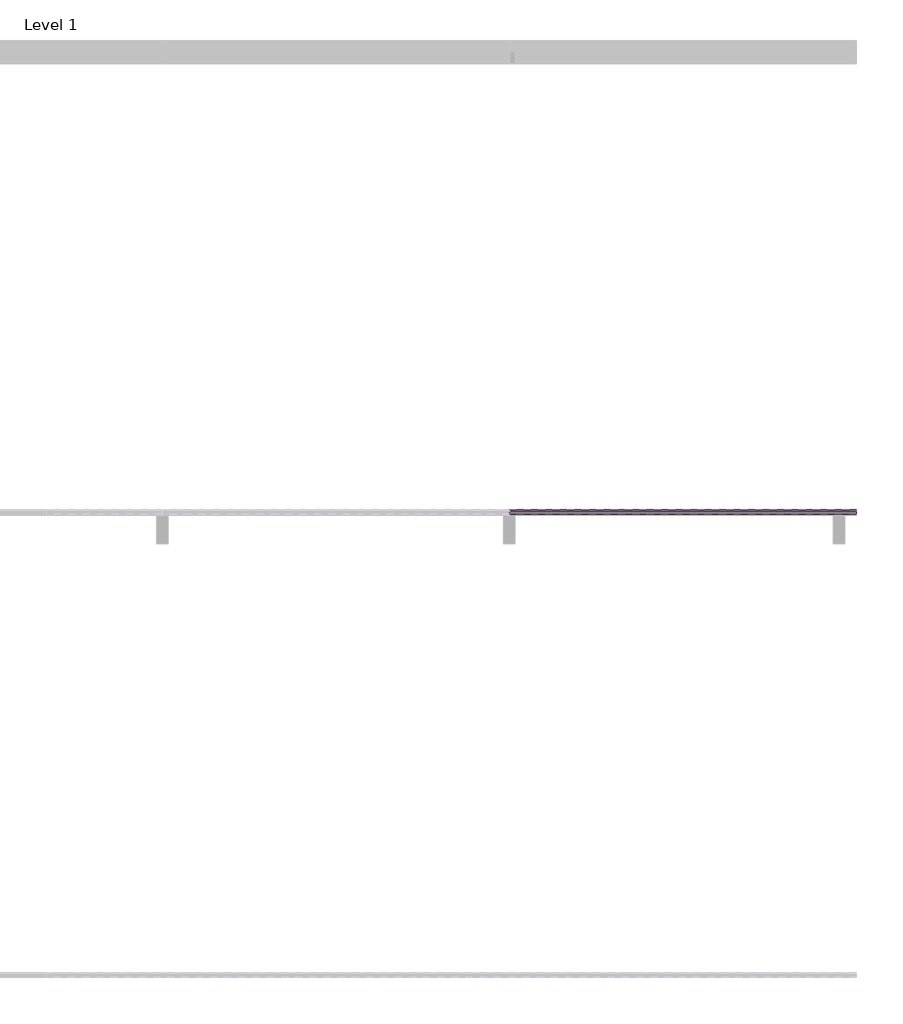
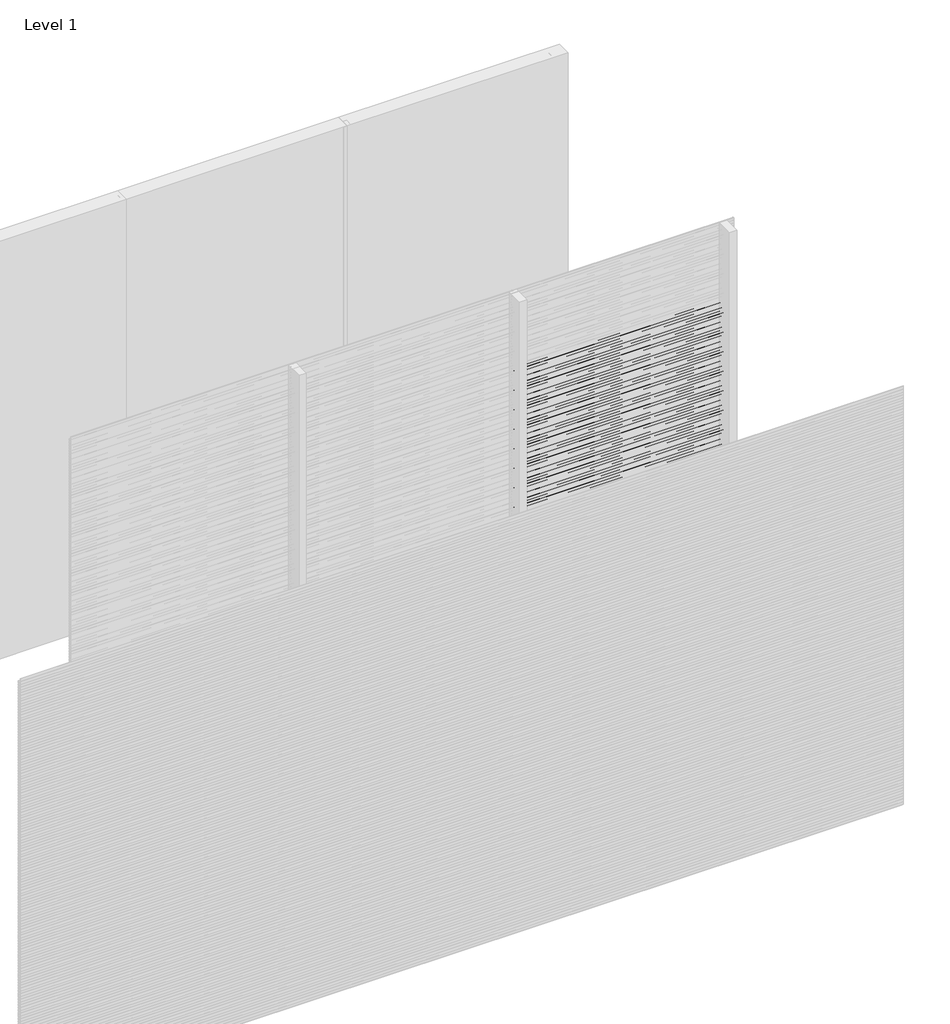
# One storey, part 8 of 31: 96 proxies.
"""IFC4 building model written with IfcOpenShell, lengths in millimetres."""

import ifcopenshell
import ifcopenshell.guid

model = None  # the IFC model being written
_history = None  # IfcOwnerHistory: only IFC2X3 demands one
_inside = {}  # id of a spatial element -> (the spatial element, [elements in it])
_under = {}  # id of a project, library or spatial element -> (it, [spatial elements below it])
_declared = {}  # id of a project -> (the project, [libraries it declares])
_typed = {}  # id of a type object -> (the type object, [elements of that type])
_made_of = {}  # id of a material, layer set ... -> (it, [elements and type objects made of it])


def new_model(schema):
    """Start an empty IFC model of exactly this schema.

    Asked for "IFC4X3", IfcOpenShell would pick the latest addendum, in which some entities
    have other attributes; the version numbers below select the first issue.
    IFC2X3 requires an IfcOwnerHistory on every rooted entity: one is made here for all.
    """
    global model, _history
    if schema == "IFC4X3":
        model = ifcopenshell.file(schema_version=(4, 3, 0, 0))
    else:
        model = ifcopenshell.file(schema=schema)
    _inside.clear()
    _under.clear()
    _declared.clear()
    _typed.clear()
    _made_of.clear()
    _history = None
    if model.schema == "IFC2X3":
        org = make("IfcOrganization", Name="unknown")
        user = make(
            "IfcPersonAndOrganization",
            ThePerson=make("IfcPerson", FamilyName="unknown"),
            TheOrganization=org,
        )
        app = make(
            "IfcApplication",
            ApplicationDeveloper=org,
            Version="unknown",
            ApplicationFullName="unknown",
            ApplicationIdentifier="unknown",
        )
        _history = make(
            "IfcOwnerHistory",
            OwningUser=user,
            OwningApplication=app,
            ChangeAction="ADDED",
            CreationDate=0,
        )
    return model


def make(cls, **values):
    """One entity of the class cls with the attributes given. An attribute that is None is left unset."""
    return model.create_entity(
        cls, **{name: value for name, value in values.items() if value is not None}
    )


def rooted(cls, **values):
    """An entity with a GlobalId (a new one), such as an element, a storey or a relation."""
    return make(cls, GlobalId=ifcopenshell.guid.new(), OwnerHistory=_history, **values)


def si_unit(unit_type, name, prefix=None):
    """IfcSIUnit, for example si_unit("LENGTHUNIT", "METRE", prefix="MILLI")."""
    return make("IfcSIUnit", UnitType=unit_type, Prefix=prefix, Name=name)


def assignment(units):
    """IfcUnitAssignment: the units of a project."""
    return None if units is None else make("IfcUnitAssignment", Units=units)


def point(xyz):
    """IfcCartesianPoint."""
    return None if xyz is None else make("IfcCartesianPoint", Coordinates=xyz)


def direction(xyz):
    """IfcDirection."""
    return None if xyz is None else make("IfcDirection", DirectionRatios=xyz)


def frame(location, z_axis=None, x_axis=None):
    """IfcAxis2Placement3D, a coordinate frame: its origin and axes. An axis left out is left unset."""
    return make(
        "IfcAxis2Placement3D",
        Location=point(location),
        Axis=direction(z_axis),
        RefDirection=direction(x_axis),
    )


def origin():
    """The frame at (0, 0, 0) with its axes left unset."""
    return frame((0.0, 0.0, 0.0))


def place(relative_to, where):
    """IfcLocalPlacement: puts the frame where relative to a parent placement (None: the world)."""
    return make(
        "IfcLocalPlacement", PlacementRelTo=relative_to, RelativePlacement=where
    )


def context(
    kind, dimensions, precision=None, world=None, true_north=None, identifier=None
):
    """IfcGeometricRepresentationContext, for example the 3D "Model" context."""
    return make(
        "IfcGeometricRepresentationContext",
        ContextIdentifier=identifier,
        ContextType=kind,
        CoordinateSpaceDimension=dimensions,
        Precision=precision,
        WorldCoordinateSystem=world,
        TrueNorth=true_north,
    )


def project(units=None, contexts=None):
    """IfcProject with its units and contexts."""
    return rooted(
        "IfcProject",
        Name="project",
        RepresentationContexts=contexts,
        UnitsInContext=assignment(units),
    )


def spatial(cls, under=None, at=None, **own):
    """A site, building, storey or space (cls), placed at a placement, below another one or the project."""
    s = rooted(cls, ObjectPlacement=at, **own)
    if under is not None:
        _under.setdefault(under.id(), (under, []))[1].append(s)
    return s


def polyline(points):
    """IfcPolyline through the points."""
    return make("IfcPolyline", Points=[point(p) for p in points])


def outline(outer, holes=None, kind="AREA"):
    """IfcArbitraryClosedProfileDef: a profile drawn as a closed curve; with holes, ...WithVoids."""
    if holes is None:
        return make("IfcArbitraryClosedProfileDef", ProfileType=kind, OuterCurve=outer)
    return make(
        "IfcArbitraryProfileDefWithVoids",
        ProfileType=kind,
        OuterCurve=outer,
        InnerCurves=holes,
    )


def extrude(swept, where, along, depth):
    """IfcExtrudedAreaSolid: the profile swept, set in the frame where, extruded along a direction by depth."""
    return make(
        "IfcExtrudedAreaSolid",
        SweptArea=swept,
        Position=where,
        ExtrudedDirection=direction(along),
        Depth=depth,
    )


def shape(context_of_items, identifier, shape_type, items):
    """IfcShapeRepresentation: the items that make up one representation, for example the "Body"."""
    return make(
        "IfcShapeRepresentation",
        ContextOfItems=context_of_items,
        RepresentationIdentifier=identifier,
        RepresentationType=shape_type,
        Items=items,
    )


def made_of(thing, what):
    """Note that an element or type object is made of a material, layer set ...; save() writes the relation."""
    if what is not None:
        _made_of.setdefault(what.id(), (what, []))[1].append(thing)
    return thing


def element(
    cls,
    number,
    at=None,
    inside=None,
    cuts=None,
    type_object=None,
    material=None,
    context=None,
    identifier="Body",
    shape_type=None,
    held_by="IfcProductDefinitionShape",
    body=None,
    shapes=None,
    **own,
):
    """One element of the class cls, such as IfcWall. Its Tag is "e" and its number.

    at: its placement. inside: the storey or other place that contains it. cuts: it is an
    opening in that element (IfcRelVoidsElement). A single representation is given by context,
    identifier, shape_type and body (its items); several are given by shapes. held_by: the class
    of the entity that holds the representations. save() writes the other relations.
    """
    e = rooted(cls, Tag="e%d" % number, ObjectPlacement=at, **own)
    if body is not None:
        shapes = [shape(context, identifier, shape_type, body)]
    if shapes is not None:
        e.Representation = make(held_by, Representations=shapes)
    if inside is not None:
        _inside.setdefault(inside.id(), (inside, []))[1].append(e)
    if cuts is not None:
        rooted(
            "IfcRelVoidsElement", RelatingBuildingElement=cuts, RelatedOpeningElement=e
        )
    if type_object is not None:
        _typed.setdefault(type_object.id(), (type_object, []))[1].append(e)
    return made_of(e, material)


def aggregate(whole, parts):
    """IfcRelAggregates: a whole, such as a stair, and the parts it consists of."""
    return rooted("IfcRelAggregates", RelatingObject=whole, RelatedObjects=parts)


def save(model, path):
    """Write the relations noted so far, then the file.

    IfcRelAggregates (storeys below a building ...), IfcRelContainedInSpatialStructure (elements
    in a storey), IfcRelDefinesByType, IfcRelAssociatesMaterial and IfcRelDeclares: one each for
    every whole, place, type object, material and project.
    """
    for whole, parts in _under.values():
        aggregate(whole, parts)
    for where, things in _inside.values():
        rooted(
            "IfcRelContainedInSpatialStructure",
            RelatedElements=things,
            RelatingStructure=where,
        )
    for kind, things in _typed.values():
        rooted("IfcRelDefinesByType", RelatedObjects=things, RelatingType=kind)
    for what, things in _made_of.values():
        rooted("IfcRelAssociatesMaterial", RelatedObjects=things, RelatingMaterial=what)
    for by, libraries in _declared.values():
        rooted("IfcRelDeclares", RelatingContext=by, RelatedDefinitions=libraries)
    model.write(path)


model = new_model("IFC4")

# Units and contexts
model_context = context("Model", 3, world=origin())
ifc_project = project(units=[si_unit("LENGTHUNIT", "METRE", prefix="MILLI")], contexts=[model_context])

# Site, building, storey
site = spatial("IfcSite", under=ifc_project)
building = spatial("IfcBuilding", under=site)
storey = spatial("IfcBuildingStorey", under=building, Name="Level 1", Elevation=0.0)

# Proxies
placement = place(None, origin())
element("IfcBuildingElementProxy", 1, Name="Wall Sweeps", at=placement, inside=storey, context=model_context, shape_type="SweptSolid", body=[
    extrude(outline(polyline([(-17995.0, 2460.0), (-17995.0, 2448.942893), (-17976.0, 2433.0), (-17976.0, 2420.0), (-17997.0, 2437.6210923), (-17997.0, 2460.0), (-17995.0, 2460.0)])), frame((4499.9999998, 0.0, 0.0), z_axis=(1.0, 0.0, 0.0), x_axis=(0.0, 1.0, 0.0)), (0.0, 0.0, 1.0), 1500.0000002),
])
element("IfcBuildingElementProxy", 2, Name="Wall Sweeps", at=placement, inside=storey, context=model_context, shape_type="SweptSolid", body=[
    extrude(outline(polyline([(-17995.0, 2440.0), (-17995.0, 2428.942893), (-17976.0, 2413.0), (-17976.0, 2400.0), (-17997.0, 2417.6210923), (-17997.0, 2440.0), (-17995.0, 2440.0)])), frame((4499.9999998, 0.0, 0.0), z_axis=(1.0, 0.0, 0.0), x_axis=(0.0, 1.0, 0.0)), (0.0, 0.0, 1.0), 1500.0000002),
])
element("IfcBuildingElementProxy", 3, Name="Wall Sweeps", at=placement, inside=storey, context=model_context, shape_type="SweptSolid", body=[
    extrude(outline(polyline([(-17995.0, 2420.0), (-17995.0, 2408.942893), (-17976.0, 2393.0), (-17976.0, 2380.0), (-17997.0, 2397.6210923), (-17997.0, 2420.0), (-17995.0, 2420.0)])), frame((4499.9999998, 0.0, 0.0), z_axis=(1.0, 0.0, 0.0), x_axis=(0.0, 1.0, 0.0)), (0.0, 0.0, 1.0), 1500.0000002),
])
element("IfcBuildingElementProxy", 4, Name="Wall Sweeps", at=placement, inside=storey, context=model_context, shape_type="SweptSolid", body=[
    extrude(outline(polyline([(-17995.0, 2400.0), (-17995.0, 2388.942893), (-17976.0, 2373.0), (-17976.0, 2360.0), (-17997.0, 2377.6210923), (-17997.0, 2400.0), (-17995.0, 2400.0)])), frame((4499.9999998, 0.0, 0.0), z_axis=(1.0, 0.0, 0.0), x_axis=(0.0, 1.0, 0.0)), (0.0, 0.0, 1.0), 1500.0000002),
])
element("IfcBuildingElementProxy", 5, Name="Wall Sweeps", at=placement, inside=storey, context=model_context, shape_type="SweptSolid", body=[
    extrude(outline(polyline([(-17995.0, 2380.0), (-17995.0, 2368.942893), (-17976.0, 2353.0), (-17976.0, 2340.0), (-17997.0, 2357.6210923), (-17997.0, 2380.0), (-17995.0, 2380.0)])), frame((4499.9999998, 0.0, 0.0), z_axis=(1.0, 0.0, 0.0), x_axis=(0.0, 1.0, 0.0)), (0.0, 0.0, 1.0), 1500.0000002),
])
element("IfcBuildingElementProxy", 6, Name="Wall Sweeps", at=placement, inside=storey, context=model_context, shape_type="SweptSolid", body=[
    extrude(outline(polyline([(-17995.0, 2360.0), (-17995.0, 2348.942893), (-17976.0, 2333.0), (-17976.0, 2320.0), (-17997.0, 2337.6210923), (-17997.0, 2360.0), (-17995.0, 2360.0)])), frame((4499.9999998, 0.0, 0.0), z_axis=(1.0, 0.0, 0.0), x_axis=(0.0, 1.0, 0.0)), (0.0, 0.0, 1.0), 1500.0000002),
])
element("IfcBuildingElementProxy", 7, Name="Wall Sweeps", at=placement, inside=storey, context=model_context, shape_type="SweptSolid", body=[
    extrude(outline(polyline([(-17995.0, 2340.0), (-17995.0, 2328.942893), (-17976.0, 2313.0), (-17976.0, 2300.0), (-17997.0, 2317.6210923), (-17997.0, 2340.0), (-17995.0, 2340.0)])), frame((4499.9999998, 0.0, 0.0), z_axis=(1.0, 0.0, 0.0), x_axis=(0.0, 1.0, 0.0)), (0.0, 0.0, 1.0), 1500.0000002),
])
element("IfcBuildingElementProxy", 8, Name="Wall Sweeps", at=placement, inside=storey, context=model_context, shape_type="SweptSolid", body=[
    extrude(outline(polyline([(-17995.0, 2320.0), (-17995.0, 2308.942893), (-17976.0, 2293.0), (-17976.0, 2280.0), (-17997.0, 2297.6210923), (-17997.0, 2320.0), (-17995.0, 2320.0)])), frame((4499.9999998, 0.0, 0.0), z_axis=(1.0, 0.0, 0.0), x_axis=(0.0, 1.0, 0.0)), (0.0, 0.0, 1.0), 1500.0000002),
])
element("IfcBuildingElementProxy", 9, Name="Wall Sweeps", at=placement, inside=storey, context=model_context, shape_type="SweptSolid", body=[
    extrude(outline(polyline([(-17995.0, 2300.0), (-17995.0, 2288.942893), (-17976.0, 2273.0), (-17976.0, 2260.0), (-17997.0, 2277.6210923), (-17997.0, 2300.0), (-17995.0, 2300.0)])), frame((4499.9999998, 0.0, 0.0), z_axis=(1.0, 0.0, 0.0), x_axis=(0.0, 1.0, 0.0)), (0.0, 0.0, 1.0), 1500.0000002),
])
element("IfcBuildingElementProxy", 10, Name="Wall Sweeps", at=placement, inside=storey, context=model_context, shape_type="SweptSolid", body=[
    extrude(outline(polyline([(-17995.0, 2280.0), (-17995.0, 2268.942893), (-17976.0, 2253.0), (-17976.0, 2240.0), (-17997.0, 2257.6210923), (-17997.0, 2280.0), (-17995.0, 2280.0)])), frame((4499.9999998, 0.0, 0.0), z_axis=(1.0, 0.0, 0.0), x_axis=(0.0, 1.0, 0.0)), (0.0, 0.0, 1.0), 1500.0000002),
])
element("IfcBuildingElementProxy", 11, Name="Wall Sweeps", at=placement, inside=storey, context=model_context, shape_type="SweptSolid", body=[
    extrude(outline(polyline([(-17995.0, 2260.0), (-17995.0, 2248.942893), (-17976.0, 2233.0), (-17976.0, 2220.0), (-17997.0, 2237.6210923), (-17997.0, 2260.0), (-17995.0, 2260.0)])), frame((4499.9999998, 0.0, 0.0), z_axis=(1.0, 0.0, 0.0), x_axis=(0.0, 1.0, 0.0)), (0.0, 0.0, 1.0), 1500.0000002),
])
element("IfcBuildingElementProxy", 12, Name="Wall Sweeps", at=placement, inside=storey, context=model_context, shape_type="SweptSolid", body=[
    extrude(outline(polyline([(-17995.0, 2240.0), (-17995.0, 2228.942893), (-17976.0, 2213.0), (-17976.0, 2200.0), (-17997.0, 2217.6210923), (-17997.0, 2240.0), (-17995.0, 2240.0)])), frame((4499.9999998, 0.0, 0.0), z_axis=(1.0, 0.0, 0.0), x_axis=(0.0, 1.0, 0.0)), (0.0, 0.0, 1.0), 1500.0000002),
])
element("IfcBuildingElementProxy", 13, Name="Wall Sweeps", at=placement, inside=storey, context=model_context, shape_type="SweptSolid", body=[
    extrude(outline(polyline([(-17995.0, 2220.0), (-17995.0, 2208.942893), (-17976.0, 2193.0), (-17976.0, 2180.0), (-17997.0, 2197.6210923), (-17997.0, 2220.0), (-17995.0, 2220.0)])), frame((4499.9999998, 0.0, 0.0), z_axis=(1.0, 0.0, 0.0), x_axis=(0.0, 1.0, 0.0)), (0.0, 0.0, 1.0), 1500.0000002),
])
element("IfcBuildingElementProxy", 14, Name="Wall Sweeps", at=placement, inside=storey, context=model_context, shape_type="SweptSolid", body=[
    extrude(outline(polyline([(-17995.0, 2200.0), (-17995.0, 2188.942893), (-17976.0, 2173.0), (-17976.0, 2160.0), (-17997.0, 2177.6210923), (-17997.0, 2200.0), (-17995.0, 2200.0)])), frame((4499.9999998, 0.0, 0.0), z_axis=(1.0, 0.0, 0.0), x_axis=(0.0, 1.0, 0.0)), (0.0, 0.0, 1.0), 1500.0000002),
])
element("IfcBuildingElementProxy", 15, Name="Wall Sweeps", at=placement, inside=storey, context=model_context, shape_type="SweptSolid", body=[
    extrude(outline(polyline([(-17995.0, 2180.0), (-17995.0, 2168.942893), (-17976.0, 2153.0), (-17976.0, 2140.0), (-17997.0, 2157.6210923), (-17997.0, 2180.0), (-17995.0, 2180.0)])), frame((4499.9999998, 0.0, 0.0), z_axis=(1.0, 0.0, 0.0), x_axis=(0.0, 1.0, 0.0)), (0.0, 0.0, 1.0), 1500.0000002),
])
element("IfcBuildingElementProxy", 16, Name="Wall Sweeps", at=placement, inside=storey, context=model_context, shape_type="SweptSolid", body=[
    extrude(outline(polyline([(-17995.0, 2160.0), (-17995.0, 2148.942893), (-17976.0, 2133.0), (-17976.0, 2120.0), (-17997.0, 2137.6210923), (-17997.0, 2160.0), (-17995.0, 2160.0)])), frame((4499.9999998, 0.0, 0.0), z_axis=(1.0, 0.0, 0.0), x_axis=(0.0, 1.0, 0.0)), (0.0, 0.0, 1.0), 1500.0000002),
])
element("IfcBuildingElementProxy", 17, Name="Wall Sweeps", at=placement, inside=storey, context=model_context, shape_type="SweptSolid", body=[
    extrude(outline(polyline([(-17995.0, 2140.0), (-17995.0, 2128.942893), (-17976.0, 2113.0), (-17976.0, 2100.0), (-17997.0, 2117.6210923), (-17997.0, 2140.0), (-17995.0, 2140.0)])), frame((4499.9999998, 0.0, 0.0), z_axis=(1.0, 0.0, 0.0), x_axis=(0.0, 1.0, 0.0)), (0.0, 0.0, 1.0), 1500.0000002),
])
element("IfcBuildingElementProxy", 18, Name="Wall Sweeps", at=placement, inside=storey, context=model_context, shape_type="SweptSolid", body=[
    extrude(outline(polyline([(-17995.0, 2120.0), (-17995.0, 2108.942893), (-17976.0, 2093.0), (-17976.0, 2080.0), (-17997.0, 2097.6210923), (-17997.0, 2120.0), (-17995.0, 2120.0)])), frame((4499.9999998, 0.0, 0.0), z_axis=(1.0, 0.0, 0.0), x_axis=(0.0, 1.0, 0.0)), (0.0, 0.0, 1.0), 1500.0000002),
])
element("IfcBuildingElementProxy", 19, Name="Wall Sweeps", at=placement, inside=storey, context=model_context, shape_type="SweptSolid", body=[
    extrude(outline(polyline([(-17995.0, 2100.0), (-17995.0, 2088.942893), (-17976.0, 2073.0), (-17976.0, 2060.0), (-17997.0, 2077.6210923), (-17997.0, 2100.0), (-17995.0, 2100.0)])), frame((4499.9999998, 0.0, 0.0), z_axis=(1.0, 0.0, 0.0), x_axis=(0.0, 1.0, 0.0)), (0.0, 0.0, 1.0), 1500.0000002),
])
element("IfcBuildingElementProxy", 20, Name="Wall Sweeps", at=placement, inside=storey, context=model_context, shape_type="SweptSolid", body=[
    extrude(outline(polyline([(-17995.0, 2080.0), (-17995.0, 2068.942893), (-17976.0, 2053.0), (-17976.0, 2040.0), (-17997.0, 2057.6210923), (-17997.0, 2080.0), (-17995.0, 2080.0)])), frame((4499.9999998, 0.0, 0.0), z_axis=(1.0, 0.0, 0.0), x_axis=(0.0, 1.0, 0.0)), (0.0, 0.0, 1.0), 1500.0000002),
])
element("IfcBuildingElementProxy", 21, Name="Wall Sweeps", at=placement, inside=storey, context=model_context, shape_type="SweptSolid", body=[
    extrude(outline(polyline([(-17995.0, 2060.0), (-17995.0, 2048.942893), (-17976.0, 2033.0), (-17976.0, 2020.0), (-17997.0, 2037.6210923), (-17997.0, 2060.0), (-17995.0, 2060.0)])), frame((4499.9999998, 0.0, 0.0), z_axis=(1.0, 0.0, 0.0), x_axis=(0.0, 1.0, 0.0)), (0.0, 0.0, 1.0), 1500.0000002),
])
element("IfcBuildingElementProxy", 22, Name="Wall Sweeps", at=placement, inside=storey, context=model_context, shape_type="SweptSolid", body=[
    extrude(outline(polyline([(-17995.0, 2040.0), (-17995.0, 2028.942893), (-17976.0, 2013.0), (-17976.0, 2000.0), (-17997.0, 2017.6210923), (-17997.0, 2040.0), (-17995.0, 2040.0)])), frame((4499.9999998, 0.0, 0.0), z_axis=(1.0, 0.0, 0.0), x_axis=(0.0, 1.0, 0.0)), (0.0, 0.0, 1.0), 1500.0000002),
])
element("IfcBuildingElementProxy", 23, Name="Wall Sweeps", at=placement, inside=storey, context=model_context, shape_type="SweptSolid", body=[
    extrude(outline(polyline([(-17995.0, 2020.0), (-17995.0, 2008.942893), (-17976.0, 1993.0), (-17976.0, 1980.0), (-17997.0, 1997.6210923), (-17997.0, 2020.0), (-17995.0, 2020.0)])), frame((4499.9999998, 0.0, 0.0), z_axis=(1.0, 0.0, 0.0), x_axis=(0.0, 1.0, 0.0)), (0.0, 0.0, 1.0), 1500.0000002),
])
element("IfcBuildingElementProxy", 24, Name="Wall Sweeps", at=placement, inside=storey, context=model_context, shape_type="SweptSolid", body=[
    extrude(outline(polyline([(-17995.0, 2000.0), (-17995.0, 1988.942893), (-17976.0, 1973.0), (-17976.0, 1960.0), (-17997.0, 1977.6210923), (-17997.0, 2000.0), (-17995.0, 2000.0)])), frame((4499.9999998, 0.0, 0.0), z_axis=(1.0, 0.0, 0.0), x_axis=(0.0, 1.0, 0.0)), (0.0, 0.0, 1.0), 1500.0000002),
])
element("IfcBuildingElementProxy", 25, Name="Wall Sweeps", at=placement, inside=storey, context=model_context, shape_type="SweptSolid", body=[
    extrude(outline(polyline([(-17995.0, 1980.0), (-17995.0, 1968.942893), (-17976.0, 1953.0), (-17976.0, 1940.0), (-17997.0, 1957.6210923), (-17997.0, 1980.0), (-17995.0, 1980.0)])), frame((4499.9999998, 0.0, 0.0), z_axis=(1.0, 0.0, 0.0), x_axis=(0.0, 1.0, 0.0)), (0.0, 0.0, 1.0), 1500.0000002),
])
element("IfcBuildingElementProxy", 26, Name="Wall Sweeps", at=placement, inside=storey, context=model_context, shape_type="SweptSolid", body=[
    extrude(outline(polyline([(-17995.0, 1960.0), (-17995.0, 1948.942893), (-17976.0, 1933.0), (-17976.0, 1920.0), (-17997.0, 1937.6210923), (-17997.0, 1960.0), (-17995.0, 1960.0)])), frame((4499.9999998, 0.0, 0.0), z_axis=(1.0, 0.0, 0.0), x_axis=(0.0, 1.0, 0.0)), (0.0, 0.0, 1.0), 1500.0000002),
])
element("IfcBuildingElementProxy", 27, Name="Wall Sweeps", at=placement, inside=storey, context=model_context, shape_type="SweptSolid", body=[
    extrude(outline(polyline([(-17995.0, 1940.0), (-17995.0, 1928.942893), (-17976.0, 1913.0), (-17976.0, 1900.0), (-17997.0, 1917.6210923), (-17997.0, 1940.0), (-17995.0, 1940.0)])), frame((4499.9999998, 0.0, 0.0), z_axis=(1.0, 0.0, 0.0), x_axis=(0.0, 1.0, 0.0)), (0.0, 0.0, 1.0), 1500.0000002),
])
element("IfcBuildingElementProxy", 28, Name="Wall Sweeps", at=placement, inside=storey, context=model_context, shape_type="SweptSolid", body=[
    extrude(outline(polyline([(-17995.0, 1920.0), (-17995.0, 1908.942893), (-17976.0, 1893.0), (-17976.0, 1880.0), (-17997.0, 1897.6210923), (-17997.0, 1920.0), (-17995.0, 1920.0)])), frame((4499.9999998, 0.0, 0.0), z_axis=(1.0, 0.0, 0.0), x_axis=(0.0, 1.0, 0.0)), (0.0, 0.0, 1.0), 1500.0000002),
])
element("IfcBuildingElementProxy", 29, Name="Wall Sweeps", at=placement, inside=storey, context=model_context, shape_type="SweptSolid", body=[
    extrude(outline(polyline([(-17995.0, 1900.0), (-17995.0, 1888.942893), (-17976.0, 1873.0), (-17976.0, 1860.0), (-17997.0, 1877.6210923), (-17997.0, 1900.0), (-17995.0, 1900.0)])), frame((4499.9999998, 0.0, 0.0), z_axis=(1.0, 0.0, 0.0), x_axis=(0.0, 1.0, 0.0)), (0.0, 0.0, 1.0), 1500.0000002),
])
element("IfcBuildingElementProxy", 30, Name="Wall Sweeps", at=placement, inside=storey, context=model_context, shape_type="SweptSolid", body=[
    extrude(outline(polyline([(-17995.0, 1880.0), (-17995.0, 1868.942893), (-17976.0, 1853.0), (-17976.0, 1840.0), (-17997.0, 1857.6210923), (-17997.0, 1880.0), (-17995.0, 1880.0)])), frame((4499.9999998, 0.0, 0.0), z_axis=(1.0, 0.0, 0.0), x_axis=(0.0, 1.0, 0.0)), (0.0, 0.0, 1.0), 1500.0000002),
])
element("IfcBuildingElementProxy", 31, Name="Wall Sweeps", at=placement, inside=storey, context=model_context, shape_type="SweptSolid", body=[
    extrude(outline(polyline([(-17995.0, 1860.0), (-17995.0, 1848.942893), (-17976.0, 1833.0), (-17976.0, 1820.0), (-17997.0, 1837.6210923), (-17997.0, 1860.0), (-17995.0, 1860.0)])), frame((4499.9999998, 0.0, 0.0), z_axis=(1.0, 0.0, 0.0), x_axis=(0.0, 1.0, 0.0)), (0.0, 0.0, 1.0), 1500.0000002),
])
element("IfcBuildingElementProxy", 32, Name="Wall Sweeps", at=placement, inside=storey, context=model_context, shape_type="SweptSolid", body=[
    extrude(outline(polyline([(-17995.0, 1840.0), (-17995.0, 1828.942893), (-17976.0, 1813.0), (-17976.0, 1800.0), (-17997.0, 1817.6210923), (-17997.0, 1840.0), (-17995.0, 1840.0)])), frame((4499.9999998, 0.0, 0.0), z_axis=(1.0, 0.0, 0.0), x_axis=(0.0, 1.0, 0.0)), (0.0, 0.0, 1.0), 1500.0000002),
])
element("IfcBuildingElementProxy", 33, Name="Wall Sweeps", at=placement, inside=storey, context=model_context, shape_type="SweptSolid", body=[
    extrude(outline(polyline([(-17995.0, 1820.0), (-17995.0, 1808.942893), (-17976.0, 1793.0), (-17976.0, 1780.0), (-17997.0, 1797.6210923), (-17997.0, 1820.0), (-17995.0, 1820.0)])), frame((4499.9999998, 0.0, 0.0), z_axis=(1.0, 0.0, 0.0), x_axis=(0.0, 1.0, 0.0)), (0.0, 0.0, 1.0), 1500.0000002),
])
element("IfcBuildingElementProxy", 34, Name="Wall Sweeps", at=placement, inside=storey, context=model_context, shape_type="SweptSolid", body=[
    extrude(outline(polyline([(-17995.0, 1800.0), (-17995.0, 1788.942893), (-17976.0, 1773.0), (-17976.0, 1760.0), (-17997.0, 1777.6210923), (-17997.0, 1800.0), (-17995.0, 1800.0)])), frame((4499.9999998, 0.0, 0.0), z_axis=(1.0, 0.0, 0.0), x_axis=(0.0, 1.0, 0.0)), (0.0, 0.0, 1.0), 1500.0000002),
])
element("IfcBuildingElementProxy", 35, Name="Wall Sweeps", at=placement, inside=storey, context=model_context, shape_type="SweptSolid", body=[
    extrude(outline(polyline([(-17995.0, 1780.0), (-17995.0, 1768.942893), (-17976.0, 1753.0), (-17976.0, 1740.0), (-17997.0, 1757.6210923), (-17997.0, 1780.0), (-17995.0, 1780.0)])), frame((4499.9999998, 0.0, 0.0), z_axis=(1.0, 0.0, 0.0), x_axis=(0.0, 1.0, 0.0)), (0.0, 0.0, 1.0), 1500.0000002),
])
element("IfcBuildingElementProxy", 36, Name="Wall Sweeps", at=placement, inside=storey, context=model_context, shape_type="SweptSolid", body=[
    extrude(outline(polyline([(-17995.0, 1760.0), (-17995.0, 1748.942893), (-17976.0, 1733.0), (-17976.0, 1720.0), (-17997.0, 1737.6210923), (-17997.0, 1760.0), (-17995.0, 1760.0)])), frame((4499.9999998, 0.0, 0.0), z_axis=(1.0, 0.0, 0.0), x_axis=(0.0, 1.0, 0.0)), (0.0, 0.0, 1.0), 1500.0000002),
])
element("IfcBuildingElementProxy", 37, Name="Wall Sweeps", at=placement, inside=storey, context=model_context, shape_type="SweptSolid", body=[
    extrude(outline(polyline([(-17995.0, 1740.0), (-17995.0, 1728.942893), (-17976.0, 1713.0), (-17976.0, 1700.0), (-17997.0, 1717.6210923), (-17997.0, 1740.0), (-17995.0, 1740.0)])), frame((4499.9999998, 0.0, 0.0), z_axis=(1.0, 0.0, 0.0), x_axis=(0.0, 1.0, 0.0)), (0.0, 0.0, 1.0), 1500.0000002),
])
element("IfcBuildingElementProxy", 38, Name="Wall Sweeps", at=placement, inside=storey, context=model_context, shape_type="SweptSolid", body=[
    extrude(outline(polyline([(-17995.0, 1720.0), (-17995.0, 1708.942893), (-17976.0, 1693.0), (-17976.0, 1680.0), (-17997.0, 1697.6210923), (-17997.0, 1720.0), (-17995.0, 1720.0)])), frame((4499.9999998, 0.0, 0.0), z_axis=(1.0, 0.0, 0.0), x_axis=(0.0, 1.0, 0.0)), (0.0, 0.0, 1.0), 1500.0000002),
])
element("IfcBuildingElementProxy", 39, Name="Wall Sweeps", at=placement, inside=storey, context=model_context, shape_type="SweptSolid", body=[
    extrude(outline(polyline([(-17995.0, 1700.0), (-17995.0, 1688.942893), (-17976.0, 1673.0), (-17976.0, 1660.0), (-17997.0, 1677.6210923), (-17997.0, 1700.0), (-17995.0, 1700.0)])), frame((4499.9999998, 0.0, 0.0), z_axis=(1.0, 0.0, 0.0), x_axis=(0.0, 1.0, 0.0)), (0.0, 0.0, 1.0), 1500.0000002),
])
element("IfcBuildingElementProxy", 40, Name="Wall Sweeps", at=placement, inside=storey, context=model_context, shape_type="SweptSolid", body=[
    extrude(outline(polyline([(-17995.0, 1680.0), (-17995.0, 1668.942893), (-17976.0, 1653.0), (-17976.0, 1640.0), (-17997.0, 1657.6210923), (-17997.0, 1680.0), (-17995.0, 1680.0)])), frame((4499.9999998, 0.0, 0.0), z_axis=(1.0, 0.0, 0.0), x_axis=(0.0, 1.0, 0.0)), (0.0, 0.0, 1.0), 1500.0000002),
])
element("IfcBuildingElementProxy", 41, Name="Wall Sweeps", at=placement, inside=storey, context=model_context, shape_type="SweptSolid", body=[
    extrude(outline(polyline([(-17995.0, 1660.0), (-17995.0, 1648.942893), (-17976.0, 1633.0), (-17976.0, 1620.0), (-17997.0, 1637.6210923), (-17997.0, 1660.0), (-17995.0, 1660.0)])), frame((4499.9999998, 0.0, 0.0), z_axis=(1.0, 0.0, 0.0), x_axis=(0.0, 1.0, 0.0)), (0.0, 0.0, 1.0), 1500.0000002),
])
element("IfcBuildingElementProxy", 42, Name="Wall Sweeps", at=placement, inside=storey, context=model_context, shape_type="SweptSolid", body=[
    extrude(outline(polyline([(-17995.0, 1640.0), (-17995.0, 1628.942893), (-17976.0, 1613.0), (-17976.0, 1600.0), (-17997.0, 1617.6210923), (-17997.0, 1640.0), (-17995.0, 1640.0)])), frame((4499.9999998, 0.0, 0.0), z_axis=(1.0, 0.0, 0.0), x_axis=(0.0, 1.0, 0.0)), (0.0, 0.0, 1.0), 1500.0000002),
])
element("IfcBuildingElementProxy", 43, Name="Wall Sweeps", at=placement, inside=storey, context=model_context, shape_type="SweptSolid", body=[
    extrude(outline(polyline([(-17995.0, 1620.0), (-17995.0, 1608.942893), (-17976.0, 1593.0), (-17976.0, 1580.0), (-17997.0, 1597.6210923), (-17997.0, 1620.0), (-17995.0, 1620.0)])), frame((4499.9999998, 0.0, 0.0), z_axis=(1.0, 0.0, 0.0), x_axis=(0.0, 1.0, 0.0)), (0.0, 0.0, 1.0), 1500.0000002),
])
element("IfcBuildingElementProxy", 44, Name="Wall Sweeps", at=placement, inside=storey, context=model_context, shape_type="SweptSolid", body=[
    extrude(outline(polyline([(-17995.0, 1600.0), (-17995.0, 1588.942893), (-17976.0, 1573.0), (-17976.0, 1560.0), (-17997.0, 1577.6210923), (-17997.0, 1600.0), (-17995.0, 1600.0)])), frame((4499.9999998, 0.0, 0.0), z_axis=(1.0, 0.0, 0.0), x_axis=(0.0, 1.0, 0.0)), (0.0, 0.0, 1.0), 1500.0000002),
])
element("IfcBuildingElementProxy", 45, Name="Wall Sweeps", at=placement, inside=storey, context=model_context, shape_type="SweptSolid", body=[
    extrude(outline(polyline([(-17995.0, 1580.0), (-17995.0, 1568.942893), (-17976.0, 1553.0), (-17976.0, 1540.0), (-17997.0, 1557.6210923), (-17997.0, 1580.0), (-17995.0, 1580.0)])), frame((4499.9999998, 0.0, 0.0), z_axis=(1.0, 0.0, 0.0), x_axis=(0.0, 1.0, 0.0)), (0.0, 0.0, 1.0), 1500.0000002),
])
element("IfcBuildingElementProxy", 46, Name="Wall Sweeps", at=placement, inside=storey, context=model_context, shape_type="SweptSolid", body=[
    extrude(outline(polyline([(-17995.0, 1560.0), (-17995.0, 1548.942893), (-17976.0, 1533.0), (-17976.0, 1520.0), (-17997.0, 1537.6210923), (-17997.0, 1560.0), (-17995.0, 1560.0)])), frame((4499.9999998, 0.0, 0.0), z_axis=(1.0, 0.0, 0.0), x_axis=(0.0, 1.0, 0.0)), (0.0, 0.0, 1.0), 1500.0000002),
])
element("IfcBuildingElementProxy", 47, Name="Wall Sweeps", at=placement, inside=storey, context=model_context, shape_type="SweptSolid", body=[
    extrude(outline(polyline([(-17995.0, 1540.0), (-17995.0, 1528.942893), (-17976.0, 1513.0), (-17976.0, 1500.0), (-17997.0, 1517.6210923), (-17997.0, 1540.0), (-17995.0, 1540.0)])), frame((4499.9999998, 0.0, 0.0), z_axis=(1.0, 0.0, 0.0), x_axis=(0.0, 1.0, 0.0)), (0.0, 0.0, 1.0), 1500.0000002),
])
element("IfcBuildingElementProxy", 48, Name="Wall Sweeps", at=placement, inside=storey, context=model_context, shape_type="SweptSolid", body=[
    extrude(outline(polyline([(-17995.0, 1520.0), (-17995.0, 1508.942893), (-17976.0, 1493.0), (-17976.0, 1480.0), (-17997.0, 1497.6210923), (-17997.0, 1520.0), (-17995.0, 1520.0)])), frame((4499.9999998, 0.0, 0.0), z_axis=(1.0, 0.0, 0.0), x_axis=(0.0, 1.0, 0.0)), (0.0, 0.0, 1.0), 1500.0000002),
])
element("IfcBuildingElementProxy", 49, Name="Wall Sweeps", at=placement, inside=storey, context=model_context, shape_type="SweptSolid", body=[
    extrude(outline(polyline([(-17995.0, 1500.0), (-17995.0, 1488.942893), (-17976.0, 1473.0), (-17976.0, 1460.0), (-17997.0, 1477.6210923), (-17997.0, 1500.0), (-17995.0, 1500.0)])), frame((4499.9999998, 0.0, 0.0), z_axis=(1.0, 0.0, 0.0), x_axis=(0.0, 1.0, 0.0)), (0.0, 0.0, 1.0), 1500.0000002),
])
element("IfcBuildingElementProxy", 50, Name="Wall Sweeps", at=placement, inside=storey, context=model_context, shape_type="SweptSolid", body=[
    extrude(outline(polyline([(-17995.0, 1480.0), (-17995.0, 1468.942893), (-17976.0, 1453.0), (-17976.0, 1440.0), (-17997.0, 1457.6210923), (-17997.0, 1480.0), (-17995.0, 1480.0)])), frame((4499.9999998, 0.0, 0.0), z_axis=(1.0, 0.0, 0.0), x_axis=(0.0, 1.0, 0.0)), (0.0, 0.0, 1.0), 1500.0000002),
])
element("IfcBuildingElementProxy", 51, Name="Wall Sweeps", at=placement, inside=storey, context=model_context, shape_type="SweptSolid", body=[
    extrude(outline(polyline([(-17995.0, 1460.0), (-17995.0, 1448.942893), (-17976.0, 1433.0), (-17976.0, 1420.0), (-17997.0, 1437.6210923), (-17997.0, 1460.0), (-17995.0, 1460.0)])), frame((4499.9999998, 0.0, 0.0), z_axis=(1.0, 0.0, 0.0), x_axis=(0.0, 1.0, 0.0)), (0.0, 0.0, 1.0), 1500.0000002),
])
element("IfcBuildingElementProxy", 52, Name="Wall Sweeps", at=placement, inside=storey, context=model_context, shape_type="SweptSolid", body=[
    extrude(outline(polyline([(-17995.0, 1440.0), (-17995.0, 1428.942893), (-17976.0, 1413.0), (-17976.0, 1400.0), (-17997.0, 1417.6210923), (-17997.0, 1440.0), (-17995.0, 1440.0)])), frame((4499.9999998, 0.0, 0.0), z_axis=(1.0, 0.0, 0.0), x_axis=(0.0, 1.0, 0.0)), (0.0, 0.0, 1.0), 1500.0000002),
])
element("IfcBuildingElementProxy", 53, Name="Wall Sweeps", at=placement, inside=storey, context=model_context, shape_type="SweptSolid", body=[
    extrude(outline(polyline([(-17995.0, 1420.0), (-17995.0, 1408.942893), (-17976.0, 1393.0), (-17976.0, 1380.0), (-17997.0, 1397.6210923), (-17997.0, 1420.0), (-17995.0, 1420.0)])), frame((4499.9999998, 0.0, 0.0), z_axis=(1.0, 0.0, 0.0), x_axis=(0.0, 1.0, 0.0)), (0.0, 0.0, 1.0), 1500.0000002),
])
element("IfcBuildingElementProxy", 54, Name="Wall Sweeps", at=placement, inside=storey, context=model_context, shape_type="SweptSolid", body=[
    extrude(outline(polyline([(-17995.0, 1400.0), (-17995.0, 1388.942893), (-17976.0, 1373.0), (-17976.0, 1360.0), (-17997.0, 1377.6210923), (-17997.0, 1400.0), (-17995.0, 1400.0)])), frame((4499.9999998, 0.0, 0.0), z_axis=(1.0, 0.0, 0.0), x_axis=(0.0, 1.0, 0.0)), (0.0, 0.0, 1.0), 1500.0000002),
])
element("IfcBuildingElementProxy", 55, Name="Wall Sweeps", at=placement, inside=storey, context=model_context, shape_type="SweptSolid", body=[
    extrude(outline(polyline([(-17995.0, 1380.0), (-17995.0, 1368.942893), (-17976.0, 1353.0), (-17976.0, 1340.0), (-17997.0, 1357.6210923), (-17997.0, 1380.0), (-17995.0, 1380.0)])), frame((4499.9999998, 0.0, 0.0), z_axis=(1.0, 0.0, 0.0), x_axis=(0.0, 1.0, 0.0)), (0.0, 0.0, 1.0), 1500.0000002),
])
element("IfcBuildingElementProxy", 56, Name="Wall Sweeps", at=placement, inside=storey, context=model_context, shape_type="SweptSolid", body=[
    extrude(outline(polyline([(-17995.0, 1360.0), (-17995.0, 1348.942893), (-17976.0, 1333.0), (-17976.0, 1320.0), (-17997.0, 1337.6210923), (-17997.0, 1360.0), (-17995.0, 1360.0)])), frame((4499.9999998, 0.0, 0.0), z_axis=(1.0, 0.0, 0.0), x_axis=(0.0, 1.0, 0.0)), (0.0, 0.0, 1.0), 1500.0000002),
])
element("IfcBuildingElementProxy", 57, Name="Wall Sweeps", at=placement, inside=storey, context=model_context, shape_type="SweptSolid", body=[
    extrude(outline(polyline([(-17995.0, 1340.0), (-17995.0, 1328.942893), (-17976.0, 1313.0), (-17976.0, 1300.0), (-17997.0, 1317.6210923), (-17997.0, 1340.0), (-17995.0, 1340.0)])), frame((4499.9999998, 0.0, 0.0), z_axis=(1.0, 0.0, 0.0), x_axis=(0.0, 1.0, 0.0)), (0.0, 0.0, 1.0), 1500.0000002),
])
element("IfcBuildingElementProxy", 58, Name="Wall Sweeps", at=placement, inside=storey, context=model_context, shape_type="SweptSolid", body=[
    extrude(outline(polyline([(-17995.0, 1320.0), (-17995.0, 1308.942893), (-17976.0, 1293.0), (-17976.0, 1280.0), (-17997.0, 1297.6210923), (-17997.0, 1320.0), (-17995.0, 1320.0)])), frame((4499.9999998, 0.0, 0.0), z_axis=(1.0, 0.0, 0.0), x_axis=(0.0, 1.0, 0.0)), (0.0, 0.0, 1.0), 1500.0000002),
])
element("IfcBuildingElementProxy", 59, Name="Wall Sweeps", at=placement, inside=storey, context=model_context, shape_type="SweptSolid", body=[
    extrude(outline(polyline([(-17995.0, 1300.0), (-17995.0, 1288.942893), (-17976.0, 1273.0), (-17976.0, 1260.0), (-17997.0, 1277.6210923), (-17997.0, 1300.0), (-17995.0, 1300.0)])), frame((4499.9999998, 0.0, 0.0), z_axis=(1.0, 0.0, 0.0), x_axis=(0.0, 1.0, 0.0)), (0.0, 0.0, 1.0), 1500.0000002),
])
element("IfcBuildingElementProxy", 60, Name="Wall Sweeps", at=placement, inside=storey, context=model_context, shape_type="SweptSolid", body=[
    extrude(outline(polyline([(-17995.0, 1280.0), (-17995.0, 1268.942893), (-17976.0, 1253.0), (-17976.0, 1240.0), (-17997.0, 1257.6210923), (-17997.0, 1280.0), (-17995.0, 1280.0)])), frame((4499.9999998, 0.0, 0.0), z_axis=(1.0, 0.0, 0.0), x_axis=(0.0, 1.0, 0.0)), (0.0, 0.0, 1.0), 1500.0000002),
])
element("IfcBuildingElementProxy", 61, Name="Wall Sweeps", at=placement, inside=storey, context=model_context, shape_type="SweptSolid", body=[
    extrude(outline(polyline([(-17995.0, 1260.0), (-17995.0, 1248.942893), (-17976.0, 1233.0), (-17976.0, 1220.0), (-17997.0, 1237.6210923), (-17997.0, 1260.0), (-17995.0, 1260.0)])), frame((4499.9999998, 0.0, 0.0), z_axis=(1.0, 0.0, 0.0), x_axis=(0.0, 1.0, 0.0)), (0.0, 0.0, 1.0), 1500.0000002),
])
element("IfcBuildingElementProxy", 62, Name="Wall Sweeps", at=placement, inside=storey, context=model_context, shape_type="SweptSolid", body=[
    extrude(outline(polyline([(-17995.0, 1240.0), (-17995.0, 1228.942893), (-17976.0, 1213.0), (-17976.0, 1200.0), (-17997.0, 1217.6210923), (-17997.0, 1240.0), (-17995.0, 1240.0)])), frame((4499.9999998, 0.0, 0.0), z_axis=(1.0, 0.0, 0.0), x_axis=(0.0, 1.0, 0.0)), (0.0, 0.0, 1.0), 1500.0000002),
])
element("IfcBuildingElementProxy", 63, Name="Wall Sweeps", at=placement, inside=storey, context=model_context, shape_type="SweptSolid", body=[
    extrude(outline(polyline([(-17995.0, 1220.0), (-17995.0, 1208.942893), (-17976.0, 1193.0), (-17976.0, 1180.0), (-17997.0, 1197.6210923), (-17997.0, 1220.0), (-17995.0, 1220.0)])), frame((4499.9999998, 0.0, 0.0), z_axis=(1.0, 0.0, 0.0), x_axis=(0.0, 1.0, 0.0)), (0.0, 0.0, 1.0), 1500.0000002),
])
element("IfcBuildingElementProxy", 64, Name="Wall Sweeps", at=placement, inside=storey, context=model_context, shape_type="SweptSolid", body=[
    extrude(outline(polyline([(-17995.0, 1200.0), (-17995.0, 1188.942893), (-17976.0, 1173.0), (-17976.0, 1160.0), (-17997.0, 1177.6210923), (-17997.0, 1200.0), (-17995.0, 1200.0)])), frame((4499.9999998, 0.0, 0.0), z_axis=(1.0, 0.0, 0.0), x_axis=(0.0, 1.0, 0.0)), (0.0, 0.0, 1.0), 1500.0000002),
])
element("IfcBuildingElementProxy", 65, Name="Wall Sweeps", at=placement, inside=storey, context=model_context, shape_type="SweptSolid", body=[
    extrude(outline(polyline([(-17995.0, 1180.0), (-17995.0, 1168.942893), (-17976.0, 1153.0), (-17976.0, 1140.0), (-17997.0, 1157.6210923), (-17997.0, 1180.0), (-17995.0, 1180.0)])), frame((4499.9999998, 0.0, 0.0), z_axis=(1.0, 0.0, 0.0), x_axis=(0.0, 1.0, 0.0)), (0.0, 0.0, 1.0), 1500.0000002),
])
element("IfcBuildingElementProxy", 66, Name="Wall Sweeps", at=placement, inside=storey, context=model_context, shape_type="SweptSolid", body=[
    extrude(outline(polyline([(-17995.0, 1160.0), (-17995.0, 1148.942893), (-17976.0, 1133.0), (-17976.0, 1120.0), (-17997.0, 1137.6210923), (-17997.0, 1160.0), (-17995.0, 1160.0)])), frame((4499.9999998, 0.0, 0.0), z_axis=(1.0, 0.0, 0.0), x_axis=(0.0, 1.0, 0.0)), (0.0, 0.0, 1.0), 1500.0000002),
])
element("IfcBuildingElementProxy", 67, Name="Wall Sweeps", at=placement, inside=storey, context=model_context, shape_type="SweptSolid", body=[
    extrude(outline(polyline([(-17995.0, 1140.0), (-17995.0, 1128.942893), (-17976.0, 1113.0), (-17976.0, 1100.0), (-17997.0, 1117.6210923), (-17997.0, 1140.0), (-17995.0, 1140.0)])), frame((4499.9999998, 0.0, 0.0), z_axis=(1.0, 0.0, 0.0), x_axis=(0.0, 1.0, 0.0)), (0.0, 0.0, 1.0), 1500.0000002),
])
element("IfcBuildingElementProxy", 68, Name="Wall Sweeps", at=placement, inside=storey, context=model_context, shape_type="SweptSolid", body=[
    extrude(outline(polyline([(-17995.0, 1120.0), (-17995.0, 1108.942893), (-17976.0, 1093.0), (-17976.0, 1080.0), (-17997.0, 1097.6210923), (-17997.0, 1120.0), (-17995.0, 1120.0)])), frame((4499.9999998, 0.0, 0.0), z_axis=(1.0, 0.0, 0.0), x_axis=(0.0, 1.0, 0.0)), (0.0, 0.0, 1.0), 1500.0000002),
])
element("IfcBuildingElementProxy", 69, Name="Wall Sweeps", at=placement, inside=storey, context=model_context, shape_type="SweptSolid", body=[
    extrude(outline(polyline([(-17995.0, 1100.0), (-17995.0, 1088.942893), (-17976.0, 1073.0), (-17976.0, 1060.0), (-17997.0, 1077.6210923), (-17997.0, 1100.0), (-17995.0, 1100.0)])), frame((4499.9999998, 0.0, 0.0), z_axis=(1.0, 0.0, 0.0), x_axis=(0.0, 1.0, 0.0)), (0.0, 0.0, 1.0), 1500.0000002),
])
element("IfcBuildingElementProxy", 70, Name="Wall Sweeps", at=placement, inside=storey, context=model_context, shape_type="SweptSolid", body=[
    extrude(outline(polyline([(-17995.0, 1080.0), (-17995.0, 1068.942893), (-17976.0, 1053.0), (-17976.0, 1040.0), (-17997.0, 1057.6210923), (-17997.0, 1080.0), (-17995.0, 1080.0)])), frame((4499.9999998, 0.0, 0.0), z_axis=(1.0, 0.0, 0.0), x_axis=(0.0, 1.0, 0.0)), (0.0, 0.0, 1.0), 1500.0000002),
])
element("IfcBuildingElementProxy", 71, Name="Wall Sweeps", at=placement, inside=storey, context=model_context, shape_type="SweptSolid", body=[
    extrude(outline(polyline([(-17995.0, 1060.0), (-17995.0, 1048.942893), (-17976.0, 1033.0), (-17976.0, 1020.0), (-17997.0, 1037.6210923), (-17997.0, 1060.0), (-17995.0, 1060.0)])), frame((4499.9999998, 0.0, 0.0), z_axis=(1.0, 0.0, 0.0), x_axis=(0.0, 1.0, 0.0)), (0.0, 0.0, 1.0), 1500.0000002),
])
element("IfcBuildingElementProxy", 72, Name="Wall Sweeps", at=placement, inside=storey, context=model_context, shape_type="SweptSolid", body=[
    extrude(outline(polyline([(-17995.0, 1040.0), (-17995.0, 1028.942893), (-17976.0, 1013.0), (-17976.0, 1000.0), (-17997.0, 1017.6210923), (-17997.0, 1040.0), (-17995.0, 1040.0)])), frame((4499.9999998, 0.0, 0.0), z_axis=(1.0, 0.0, 0.0), x_axis=(0.0, 1.0, 0.0)), (0.0, 0.0, 1.0), 1500.0000002),
])
element("IfcBuildingElementProxy", 73, Name="Wall Sweeps", at=placement, inside=storey, context=model_context, shape_type="SweptSolid", body=[
    extrude(outline(polyline([(-17995.0, 1020.0), (-17995.0, 1008.942893), (-17976.0, 993.0), (-17976.0, 980.0), (-17997.0, 997.6210923), (-17997.0, 1020.0), (-17995.0, 1020.0)])), frame((4499.9999998, 0.0, 0.0), z_axis=(1.0, 0.0, 0.0), x_axis=(0.0, 1.0, 0.0)), (0.0, 0.0, 1.0), 1500.0000002),
])
element("IfcBuildingElementProxy", 74, Name="Wall Sweeps", at=placement, inside=storey, context=model_context, shape_type="SweptSolid", body=[
    extrude(outline(polyline([(-17995.0, 1000.0), (-17995.0, 988.942893), (-17976.0, 973.0), (-17976.0, 960.0), (-17997.0, 977.6210923), (-17997.0, 1000.0), (-17995.0, 1000.0)])), frame((4499.9999998, 0.0, 0.0), z_axis=(1.0, 0.0, 0.0), x_axis=(0.0, 1.0, 0.0)), (0.0, 0.0, 1.0), 1500.0000002),
])
element("IfcBuildingElementProxy", 75, Name="Wall Sweeps", at=placement, inside=storey, context=model_context, shape_type="SweptSolid", body=[
    extrude(outline(polyline([(-17995.0, 980.0), (-17995.0, 968.942893), (-17976.0, 953.0), (-17976.0, 940.0), (-17997.0, 957.6210923), (-17997.0, 980.0), (-17995.0, 980.0)])), frame((4499.9999998, 0.0, 0.0), z_axis=(1.0, 0.0, 0.0), x_axis=(0.0, 1.0, 0.0)), (0.0, 0.0, 1.0), 1500.0000002),
])
element("IfcBuildingElementProxy", 76, Name="Wall Sweeps", at=placement, inside=storey, context=model_context, shape_type="SweptSolid", body=[
    extrude(outline(polyline([(-17995.0, 960.0), (-17995.0, 948.942893), (-17976.0, 933.0), (-17976.0, 920.0), (-17997.0, 937.6210923), (-17997.0, 960.0), (-17995.0, 960.0)])), frame((4499.9999998, 0.0, 0.0), z_axis=(1.0, 0.0, 0.0), x_axis=(0.0, 1.0, 0.0)), (0.0, 0.0, 1.0), 1500.0000002),
])
element("IfcBuildingElementProxy", 77, Name="Wall Sweeps", at=placement, inside=storey, context=model_context, shape_type="SweptSolid", body=[
    extrude(outline(polyline([(-17995.0, 940.0), (-17995.0, 928.942893), (-17976.0, 913.0), (-17976.0, 900.0), (-17997.0, 917.6210923), (-17997.0, 940.0), (-17995.0, 940.0)])), frame((4499.9999998, 0.0, 0.0), z_axis=(1.0, 0.0, 0.0), x_axis=(0.0, 1.0, 0.0)), (0.0, 0.0, 1.0), 1500.0000002),
])
element("IfcBuildingElementProxy", 78, Name="Wall Sweeps", at=placement, inside=storey, context=model_context, shape_type="SweptSolid", body=[
    extrude(outline(polyline([(-17995.0, 920.0), (-17995.0, 908.942893), (-17976.0, 893.0), (-17976.0, 880.0), (-17997.0, 897.6210923), (-17997.0, 920.0), (-17995.0, 920.0)])), frame((4499.9999998, 0.0, 0.0), z_axis=(1.0, 0.0, 0.0), x_axis=(0.0, 1.0, 0.0)), (0.0, 0.0, 1.0), 1500.0000002),
])
element("IfcBuildingElementProxy", 79, Name="Wall Sweeps", at=placement, inside=storey, context=model_context, shape_type="SweptSolid", body=[
    extrude(outline(polyline([(-17995.0, 900.0), (-17995.0, 888.942893), (-17976.0, 873.0), (-17976.0, 860.0), (-17997.0, 877.6210923), (-17997.0, 900.0), (-17995.0, 900.0)])), frame((4499.9999998, 0.0, 0.0), z_axis=(1.0, 0.0, 0.0), x_axis=(0.0, 1.0, 0.0)), (0.0, 0.0, 1.0), 1500.0000002),
])
element("IfcBuildingElementProxy", 80, Name="Wall Sweeps", at=placement, inside=storey, context=model_context, shape_type="SweptSolid", body=[
    extrude(outline(polyline([(-17995.0, 880.0), (-17995.0, 868.942893), (-17976.0, 853.0), (-17976.0, 840.0), (-17997.0, 857.6210923), (-17997.0, 880.0), (-17995.0, 880.0)])), frame((4499.9999998, 0.0, 0.0), z_axis=(1.0, 0.0, 0.0), x_axis=(0.0, 1.0, 0.0)), (0.0, 0.0, 1.0), 1500.0000002),
])
element("IfcBuildingElementProxy", 81, Name="Wall Sweeps", at=placement, inside=storey, context=model_context, shape_type="SweptSolid", body=[
    extrude(outline(polyline([(-17995.0, 860.0), (-17995.0, 848.942893), (-17976.0, 833.0), (-17976.0, 820.0), (-17997.0, 837.6210923), (-17997.0, 860.0), (-17995.0, 860.0)])), frame((4499.9999998, 0.0, 0.0), z_axis=(1.0, 0.0, 0.0), x_axis=(0.0, 1.0, 0.0)), (0.0, 0.0, 1.0), 1500.0000002),
])
element("IfcBuildingElementProxy", 82, Name="Wall Sweeps", at=placement, inside=storey, context=model_context, shape_type="SweptSolid", body=[
    extrude(outline(polyline([(-17995.0, 840.0), (-17995.0, 828.942893), (-17976.0, 813.0), (-17976.0, 800.0), (-17997.0, 817.6210923), (-17997.0, 840.0), (-17995.0, 840.0)])), frame((4499.9999998, 0.0, 0.0), z_axis=(1.0, 0.0, 0.0), x_axis=(0.0, 1.0, 0.0)), (0.0, 0.0, 1.0), 1500.0000002),
])
element("IfcBuildingElementProxy", 83, Name="Wall Sweeps", at=placement, inside=storey, context=model_context, shape_type="SweptSolid", body=[
    extrude(outline(polyline([(-17995.0, 820.0), (-17995.0, 808.942893), (-17976.0, 793.0), (-17976.0, 780.0), (-17997.0, 797.6210923), (-17997.0, 820.0), (-17995.0, 820.0)])), frame((4499.9999998, 0.0, 0.0), z_axis=(1.0, 0.0, 0.0), x_axis=(0.0, 1.0, 0.0)), (0.0, 0.0, 1.0), 1500.0000002),
])
element("IfcBuildingElementProxy", 84, Name="Wall Sweeps", at=placement, inside=storey, context=model_context, shape_type="SweptSolid", body=[
    extrude(outline(polyline([(-17995.0, 800.0), (-17995.0, 788.942893), (-17976.0, 773.0), (-17976.0, 760.0), (-17997.0, 777.6210923), (-17997.0, 800.0), (-17995.0, 800.0)])), frame((4499.9999998, 0.0, 0.0), z_axis=(1.0, 0.0, 0.0), x_axis=(0.0, 1.0, 0.0)), (0.0, 0.0, 1.0), 1500.0000002),
])
element("IfcBuildingElementProxy", 85, Name="Wall Sweeps", at=placement, inside=storey, context=model_context, shape_type="SweptSolid", body=[
    extrude(outline(polyline([(-17995.0, 780.0), (-17995.0, 768.942893), (-17976.0, 753.0), (-17976.0, 740.0), (-17997.0, 757.6210923), (-17997.0, 780.0), (-17995.0, 780.0)])), frame((4499.9999998, 0.0, 0.0), z_axis=(1.0, 0.0, 0.0), x_axis=(0.0, 1.0, 0.0)), (0.0, 0.0, 1.0), 1500.0000002),
])
element("IfcBuildingElementProxy", 86, Name="Wall Sweeps", at=placement, inside=storey, context=model_context, shape_type="SweptSolid", body=[
    extrude(outline(polyline([(-17995.0, 760.0), (-17995.0, 748.942893), (-17976.0, 733.0), (-17976.0, 720.0), (-17997.0, 737.6210923), (-17997.0, 760.0), (-17995.0, 760.0)])), frame((4499.9999998, 0.0, 0.0), z_axis=(1.0, 0.0, 0.0), x_axis=(0.0, 1.0, 0.0)), (0.0, 0.0, 1.0), 1500.0000002),
])
element("IfcBuildingElementProxy", 87, Name="Wall Sweeps", at=placement, inside=storey, context=model_context, shape_type="SweptSolid", body=[
    extrude(outline(polyline([(-17995.0, 740.0), (-17995.0, 728.942893), (-17976.0, 713.0), (-17976.0, 700.0), (-17997.0, 717.6210923), (-17997.0, 740.0), (-17995.0, 740.0)])), frame((4499.9999998, 0.0, 0.0), z_axis=(1.0, 0.0, 0.0), x_axis=(0.0, 1.0, 0.0)), (0.0, 0.0, 1.0), 1500.0000002),
])
element("IfcBuildingElementProxy", 88, Name="Wall Sweeps", at=placement, inside=storey, context=model_context, shape_type="SweptSolid", body=[
    extrude(outline(polyline([(-17995.0, 720.0), (-17995.0, 708.942893), (-17976.0, 693.0), (-17976.0, 680.0), (-17997.0, 697.6210923), (-17997.0, 720.0), (-17995.0, 720.0)])), frame((4499.9999998, 0.0, 0.0), z_axis=(1.0, 0.0, 0.0), x_axis=(0.0, 1.0, 0.0)), (0.0, 0.0, 1.0), 1500.0000002),
])
element("IfcBuildingElementProxy", 89, Name="Wall Sweeps", at=placement, inside=storey, context=model_context, shape_type="SweptSolid", body=[
    extrude(outline(polyline([(-17995.0, 700.0), (-17995.0, 688.942893), (-17976.0, 673.0), (-17976.0, 660.0), (-17997.0, 677.6210923), (-17997.0, 700.0), (-17995.0, 700.0)])), frame((4499.9999998, 0.0, 0.0), z_axis=(1.0, 0.0, 0.0), x_axis=(0.0, 1.0, 0.0)), (0.0, 0.0, 1.0), 1500.0000002),
])
element("IfcBuildingElementProxy", 90, Name="Wall Sweeps", at=placement, inside=storey, context=model_context, shape_type="SweptSolid", body=[
    extrude(outline(polyline([(-17995.0, 680.0), (-17995.0, 668.942893), (-17976.0, 653.0), (-17976.0, 640.0), (-17997.0, 657.6210923), (-17997.0, 680.0), (-17995.0, 680.0)])), frame((4499.9999998, 0.0, 0.0), z_axis=(1.0, 0.0, 0.0), x_axis=(0.0, 1.0, 0.0)), (0.0, 0.0, 1.0), 1500.0000002),
])
element("IfcBuildingElementProxy", 91, Name="Wall Sweeps", at=placement, inside=storey, context=model_context, shape_type="SweptSolid", body=[
    extrude(outline(polyline([(-17995.0, 660.0), (-17995.0, 648.942893), (-17976.0, 633.0), (-17976.0, 620.0), (-17997.0, 637.6210923), (-17997.0, 660.0), (-17995.0, 660.0)])), frame((4499.9999998, 0.0, 0.0), z_axis=(1.0, 0.0, 0.0), x_axis=(0.0, 1.0, 0.0)), (0.0, 0.0, 1.0), 1500.0000002),
])
element("IfcBuildingElementProxy", 92, Name="Wall Sweeps", at=placement, inside=storey, context=model_context, shape_type="SweptSolid", body=[
    extrude(outline(polyline([(-17995.0, 640.0), (-17995.0, 628.942893), (-17976.0, 613.0), (-17976.0, 600.0), (-17997.0, 617.6210923), (-17997.0, 640.0), (-17995.0, 640.0)])), frame((4499.9999998, 0.0, 0.0), z_axis=(1.0, 0.0, 0.0), x_axis=(0.0, 1.0, 0.0)), (0.0, 0.0, 1.0), 1500.0000002),
])
element("IfcBuildingElementProxy", 93, Name="Wall Sweeps", at=placement, inside=storey, context=model_context, shape_type="SweptSolid", body=[
    extrude(outline(polyline([(-17995.0, 620.0), (-17995.0, 608.942893), (-17976.0, 593.0), (-17976.0, 580.0), (-17997.0, 597.6210923), (-17997.0, 620.0), (-17995.0, 620.0)])), frame((4499.9999998, 0.0, 0.0), z_axis=(1.0, 0.0, 0.0), x_axis=(0.0, 1.0, 0.0)), (0.0, 0.0, 1.0), 1500.0000002),
])
element("IfcBuildingElementProxy", 94, Name="Wall Sweeps", at=placement, inside=storey, context=model_context, shape_type="SweptSolid", body=[
    extrude(outline(polyline([(-17995.0, 600.0), (-17995.0, 588.942893), (-17976.0, 573.0), (-17976.0, 560.0), (-17997.0, 577.6210923), (-17997.0, 600.0), (-17995.0, 600.0)])), frame((4499.9999998, 0.0, 0.0), z_axis=(1.0, 0.0, 0.0), x_axis=(0.0, 1.0, 0.0)), (0.0, 0.0, 1.0), 1500.0000002),
])
element("IfcBuildingElementProxy", 95, Name="Wall Sweeps", at=placement, inside=storey, context=model_context, shape_type="SweptSolid", body=[
    extrude(outline(polyline([(-17995.0, 580.0), (-17995.0, 568.942893), (-17976.0, 553.0), (-17976.0, 540.0), (-17997.0, 557.6210923), (-17997.0, 580.0), (-17995.0, 580.0)])), frame((4499.9999998, 0.0, 0.0), z_axis=(1.0, 0.0, 0.0), x_axis=(0.0, 1.0, 0.0)), (0.0, 0.0, 1.0), 1500.0000002),
])
element("IfcBuildingElementProxy", 96, Name="Wall Sweeps", at=placement, inside=storey, context=model_context, shape_type="SweptSolid", body=[
    extrude(outline(polyline([(-17995.0, 560.0), (-17995.0, 548.942893), (-17976.0, 533.0), (-17976.0, 520.0), (-17997.0, 537.6210923), (-17997.0, 560.0), (-17995.0, 560.0)])), frame((4499.9999998, 0.0, 0.0), z_axis=(1.0, 0.0, 0.0), x_axis=(0.0, 1.0, 0.0)), (0.0, 0.0, 1.0), 1500.0000002),
])

save(model, "model.ifc")
